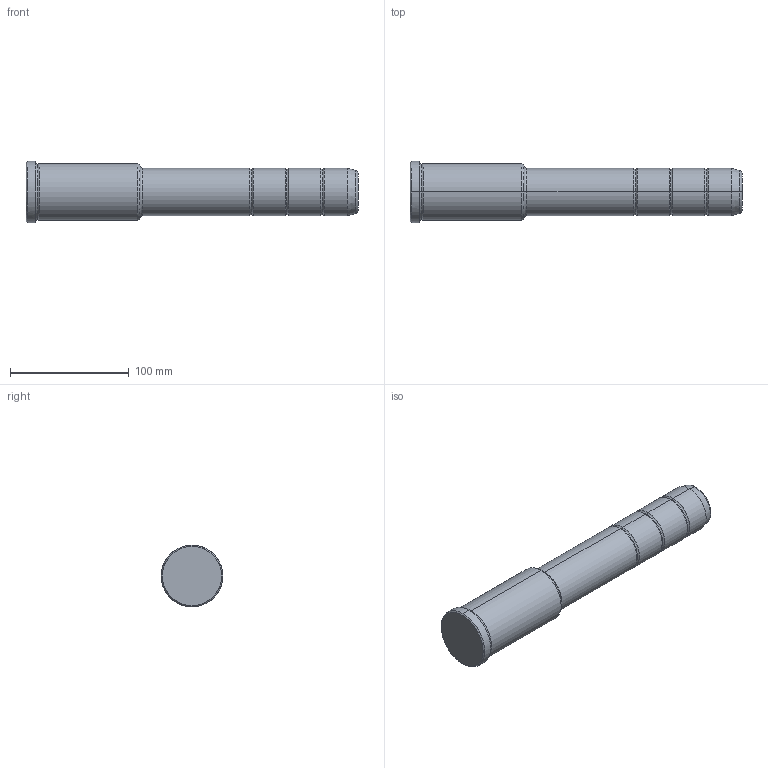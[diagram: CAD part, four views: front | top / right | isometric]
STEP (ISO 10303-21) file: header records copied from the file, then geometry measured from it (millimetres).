
FILE_DESCRIPTION(('CATIA V5 STEP Exchange'),'2;1');
FILE_NAME('C:\Users\Utente\Desktop\IO LAVORO\3D X SITO CF\X SITO\PLASTICA\351\351-40X96X280.stp','2021-10-07T14:03:39+00:00',('none'),('none'),'CATIA Version 5 Release 20 GA (IN-10)','CATIA V5 STEP AP203','none');
FILE_SCHEMA(('CONFIG_CONTROL_DESIGN'));
Length unit declared in the file: millimetre
Products named in the file (1): 351-40X96X280
Bounding box: 280 x 52 x 52 mm (x, y, z)
Volume: 405001.4 mm3; surface area: 41482.1 mm2
Topology: 1 solids, 1 shells, 42 faces, 118 edges, 80 vertices
Faces by surface type: torus 20, cylinder 12, cone 6, plane 4
Entity records: 1472 total; most frequent: CARTESIAN_POINT 353, ORIENTED_EDGE 236, DIRECTION 194, AXIS2_PLACEMENT_3D 135, EDGE_CURVE 118, CIRCLE 92, VERTEX_POINT 80, EDGE_LOOP 44
